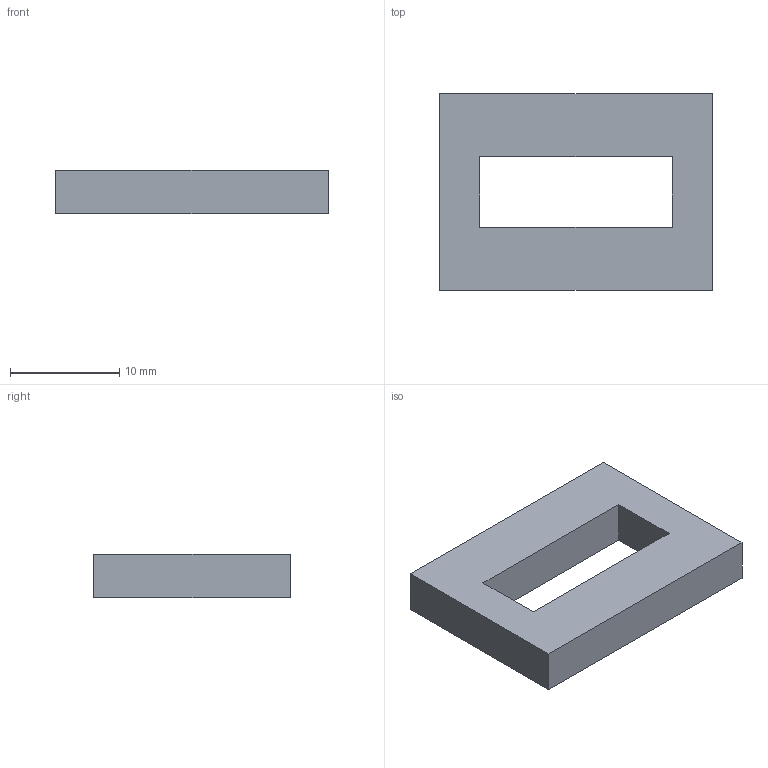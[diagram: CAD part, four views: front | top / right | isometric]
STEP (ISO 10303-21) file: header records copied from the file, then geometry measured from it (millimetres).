
FILE_DESCRIPTION(('FreeCAD Model'),'2;1');
FILE_NAME('Open CASCADE Shape Model','2026-11-20T08:25:39',('FreeCAD'),( 'FreeCAD'),'Open CASCADE STEP processor 7.8','FreeCAD','Unknown');
FILE_SCHEMA(('AUTOMOTIVE_DESIGN { 1 0 10303 214 1 1 1 1 }'));
Length unit declared in the file: millimetre
Products named in the file (1): Open CASCADE STEP translator 7.8 107
Bounding box: 25 x 18 x 4 mm (x, y, z)
Volume: 1342.4 mm3; surface area: 1208 mm2
Topology: 1 solids, 1 shells, 10 faces, 24 edges, 16 vertices
Faces by surface type: plane 10
Entity records: 302 total; most frequent: CARTESIAN_POINT 51, ORIENTED_EDGE 48, DIRECTION 46, EDGE_CURVE 24, LINE 24, VECTOR 24, VERTEX_POINT 16, FACE_BOUND 12
